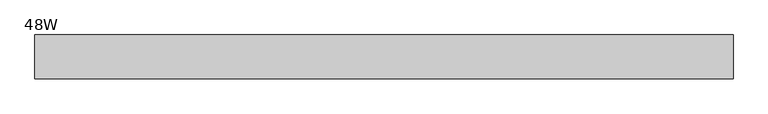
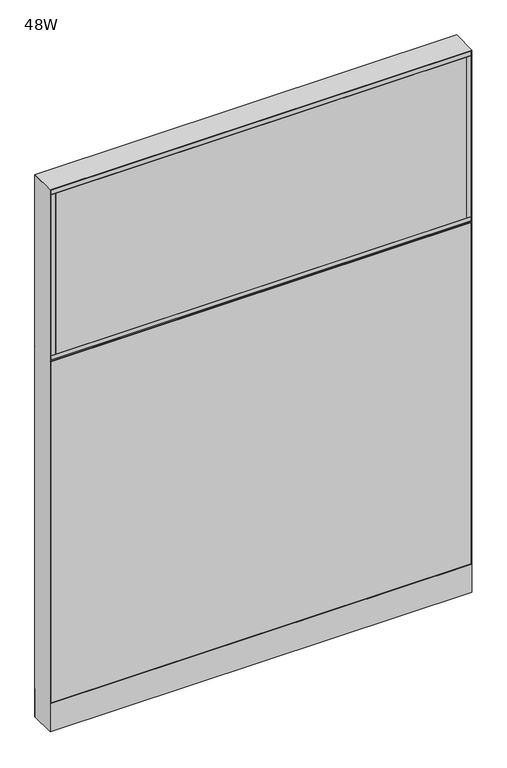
"""IFC4 building model written with IfcOpenShell, lengths in millimetres: furniture geometry, Steelcase - Montage - Frame - 65H - Enhanced Standard - Base Cavity : 48W."""

from ifc_helpers import new_model, si_unit, point, frame, frame_2d, origin, origin_with_axes, place, context, project, spatial, polyline, circle_curve, trimmed, segment, composite_curve, outline, extrude, faceted_brep, source, transform, mapped, element, save


def furniture_48w_963632dd(model_context):
    return source(origin(), model_context, "Body", "SolidModel", [
        faceted_brep([(-5.4e-06, 38.102627, 1136.6500027), (6.3499917, 31.7526299, 1142.9999997), (1212.8500047, 31.7526299, 1142.9999997), (1219.2, 38.1026253, 1136.6500044), (1212.8500047, 31.7526299, 1130.3000003), (6.3499917, 31.7526299, 1130.3000003)], [[[0, 1, 2, 3]], [[3, 4, 5, 0]], [[1, 5, 4, 2]], [[0, 5, 1]], [[2, 4, 3]]]),
        extrude(outline(polyline([(1203.325, 38.1000015), (1203.325, 31.7500017), (15.875, 31.7500017), (15.875, 38.1000015), (1203.325, 38.1000015)])), frame((0.0, 0.0, 1152.525), z_axis=(0.0, 0.0, 1.0), x_axis=(1.0, 0.0, 0.0)), (0.0, 0.0, 1.0), 492.125),
        extrude(outline(polyline([(1203.325, -31.7499985), (1203.325, -38.1000015), (15.875, -38.1000015), (15.875, -31.7499985), (1203.325, -31.7499985)])), frame((0.0, 0.0, 1152.525), z_axis=(0.0, 0.0, 1.0), x_axis=(1.0, 0.0, 0.0)), (0.0, 0.0, 1.0), 492.125),
        extrude(outline(polyline([(1216.025, -38.1000015), (1203.325, -38.1000015), (1203.325, 38.1000015), (1216.025, 38.1000015), (1216.025, -38.1000015)])), frame((0.0, 0.0, 1152.525), z_axis=(0.0, 0.0, 1.0), x_axis=(1.0, 0.0, 0.0)), (0.0, 0.0, 1.0), 492.125),
        extrude(outline(polyline([(15.875, -38.1000015), (3.175, -38.1000015), (3.175, 38.1000015), (15.875, 38.1000015), (15.875, -38.1000015)])), frame((0.0, 0.0, 1152.525), z_axis=(0.0, 0.0, 1.0), x_axis=(1.0, 0.0, 0.0)), (0.0, 0.0, 1.0), 492.125),
        extrude(outline(polyline([(1216.025, -38.1000015), (3.175, -38.1000015), (3.175, 38.1000015), (1216.025, 38.1000015), (1216.025, -38.1000015)])), frame((0.0, 0.0, 1139.825), z_axis=(0.0, 0.0, 1.0), x_axis=(1.0, 0.0, 0.0)), (0.0, 0.0, 1.0), 12.7),
        extrude(outline(polyline([(1216.025, -38.1000015), (3.175, -38.1000015), (3.175, 38.1000015), (1216.025, 38.1000015), (1216.025, -38.1000015)])), frame((0.0, 0.0, 1644.65), z_axis=(0.0, 0.0, 1.0), x_axis=(1.0, 0.0, 0.0)), (0.0, 0.0, 1.0), 12.7),
        extrude(outline(polyline([(3.175, 31.7500194), (3.175, 38.1000194), (1216.025, 38.1000194), (1216.025, 31.7500194), (3.175, 31.7500194)])), frame((0.0, 0.0, 92.075), z_axis=(0.0, 0.0, 1.0), x_axis=(1.0, 0.0, 0.0)), (0.0, 0.0, 1.0), 1041.4),
        faceted_brep([(0.0, -38.1026297, 1136.65), (1219.2, -38.1026297, 1136.65), (1212.8500047, -31.7526299, 1142.9999997), (6.3499917, -31.7526299, 1142.9999997), (6.3499917, -31.7526299, 1130.3000003), (1212.8500047, -31.7526299, 1130.3000003)], [[[0, 1, 2, 3]], [[1, 0, 4, 5]], [[3, 2, 5, 4]], [[0, 3, 4]], [[2, 1, 5]]]),
        extrude(outline(polyline([(1203.325, -38.1000015), (15.875, -38.1000015), (15.875, -31.7500017), (1203.325, -31.7500017), (1203.325, -38.1000015)])), frame((0.0, 0.0, 1152.525), z_axis=(0.0, 0.0, 1.0), x_axis=(1.0, 0.0, 0.0)), (0.0, 0.0, 1.0), 492.125),
        extrude(outline(polyline([(1203.325, 31.7499985), (15.875, 31.7499985), (15.875, 38.1000015), (1203.325, 38.1000015), (1203.325, 31.7499985)])), frame((0.0, 0.0, 1152.525), z_axis=(0.0, 0.0, 1.0), x_axis=(1.0, 0.0, 0.0)), (0.0, 0.0, 1.0), 492.125),
        extrude(outline(polyline([(1216.025, 38.1000015), (1216.025, -38.1000015), (1203.325, -38.1000015), (1203.325, 38.1000015), (1216.025, 38.1000015)])), frame((0.0, 0.0, 1152.525), z_axis=(0.0, 0.0, 1.0), x_axis=(1.0, 0.0, 0.0)), (0.0, 0.0, 1.0), 492.125),
        extrude(outline(polyline([(15.875, 38.1000015), (15.875, -38.1000015), (3.175, -38.1000015), (3.175, 38.1000015), (15.875, 38.1000015)])), frame((0.0, 0.0, 1152.525), z_axis=(0.0, 0.0, 1.0), x_axis=(1.0, 0.0, 0.0)), (0.0, 0.0, 1.0), 492.125),
        extrude(outline(polyline([(1216.025, 38.1000015), (1216.025, -38.1000015), (3.175, -38.1000015), (3.175, 38.1000015), (1216.025, 38.1000015)])), frame((0.0, 0.0, 1139.825), z_axis=(0.0, 0.0, 1.0), x_axis=(1.0, 0.0, 0.0)), (0.0, 0.0, 1.0), 12.7),
        extrude(outline(polyline([(1216.025, 38.1000015), (1216.025, -38.1000015), (3.175, -38.1000015), (3.175, 38.1000015), (1216.025, 38.1000015)])), frame((0.0, 0.0, 1644.65), z_axis=(0.0, 0.0, 1.0), x_axis=(1.0, 0.0, 0.0)), (0.0, 0.0, 1.0), 12.7),
        extrude(outline(polyline([(3.175, -31.7500194), (1216.025, -31.7500194), (1216.025, -38.1000194), (3.175, -38.1000194), (3.175, -31.7500194)])), frame((0.0, 0.0, 92.075), z_axis=(0.0, 0.0, 1.0), x_axis=(1.0, 0.0, 0.0)), (0.0, 0.0, 1.0), 1041.4),
        extrude(outline(polyline([(6.350003, -31.7499985), (1212.849997, -31.7499985), (1219.2, -38.1000015), (0.0, -38.1000015), (6.350003, -31.7499985)])), frame((0.0, 0.0, 4.064), z_axis=(0.0, 0.0, 1.0), x_axis=(1.0, 0.0, 0.0)), (0.0, 0.0, 1.0), 84.835997),
        extrude(outline(polyline([(6.3500002, 31.7500017), (0.0, 38.1000015), (1219.2, 38.1000015), (1212.8500002, 31.7500017), (6.3500002, 31.7500017)])), frame((0.0, 0.0, 4.064), z_axis=(0.0, 0.0, 1.0), x_axis=(1.0, 0.0, 0.0)), (0.0, 0.0, 1.0), 84.835997),
        faceted_brep([(1219.2, -38.1000015, 1660.525), (0.0, -38.1000015, 1660.525), (6.3500484, -31.749953, 1654.1749516), (1212.8499516, -31.749953, 1654.1749516), (6.3500484, 31.749953, 1654.1749516), (1212.8499516, 31.749953, 1654.1749516), (0.0, 38.1000015, 1660.525), (1219.2, 38.1000015, 1660.525)], [[[0, 1, 2, 3]], [[3, 2, 4, 5]], [[6, 7, 5, 4]], [[1, 0, 7, 6]], [[2, 1, 6, 4]], [[0, 3, 5, 7]]]),
        extrude(outline(composite_curve([segment(trimmed(circle_curve(frame_2d((44.45, 0.0)), 15.24), [point((29.21, 0.0))], [point((59.69, 0.0))], False, "CARTESIAN"), True, "CONTINUOUS"), segment(trimmed(circle_curve(frame_2d((44.45, 0.0)), 15.24), [point((59.69, 0.0))], [point((29.21, 0.0))], False, "CARTESIAN"), True, "CONTINUOUS")], self_intersect=False)), origin_with_axes(), (0.0, 0.0, 1.0), 4.064),
        extrude(outline(composite_curve([segment(trimmed(circle_curve(frame_2d((1174.75, 0.0)), 15.24), [point((1159.51, 0.0))], [point((1189.99, 0.0))], False, "CARTESIAN"), True, "CONTINUOUS"), segment(trimmed(circle_curve(frame_2d((1174.75, 0.0)), 15.24), [point((1189.99, 0.0))], [point((1159.51, 0.0))], False, "CARTESIAN"), True, "CONTINUOUS")], self_intersect=False)), origin_with_axes(), (0.0, 0.0, 1.0), 4.064),
        faceted_brep([(1219.2, -38.1000106, 4.064), (1219.2, 38.1000015, 4.064), (1219.2, 38.1000015, 1660.525), (1219.2, -38.1000106, 1660.5249637), (0.0, 38.1000015, 4.064), (0.0, -38.1000015, 4.064), (0.0, -38.1000015, 1660.525), (0.0, 38.1000015, 1660.525), (1212.8499879, 31.7500017, 606.425), (6.35, 31.7500017, 606.425), (6.3499998, 31.7500017, 619.125), (1212.8499879, 31.7500017, 619.125), (6.35, -31.7499985, 619.125), (1212.8499879, -31.7499985, 619.125), (6.350003, -31.7499985, 606.425), (1212.8499879, -31.7499985, 606.425), (1212.8499879, 31.7500017, 1130.3), (6.35, 31.7500017, 1130.3), (6.3499998, 31.7500017, 1143.0), (1212.8499879, 31.7500017, 1143.0), (6.35, -31.7499985, 1143.0), (1212.8499879, -31.7499985, 1143.0), (6.350003, -31.7499985, 1130.3), (1212.8499879, -31.7499985, 1130.3), (6.35, 31.7500015, 4.064), (6.35, -31.7500015, 4.064), (1212.8499879, 31.7499894, 4.064), (1212.8499879, -31.7499985, 4.064), (6.35, 31.7500015, 1654.175), (6.35, -31.7500015, 1654.175), (1212.8499879, -31.7499985, 1654.1749516), (1212.8499879, 31.7499895, 1654.1749516)], [[[0, 1, 2, 3]], [[4, 5, 6, 7]], [[8, 9, 10, 11]], [[11, 10, 12, 13]], [[13, 12, 14, 15]], [[9, 8, 15, 14]], [[16, 17, 18, 19]], [[19, 18, 20, 21]], [[21, 20, 22, 23]], [[17, 16, 23, 22]], [[24, 25, 5, 4]], [[26, 1, 0, 27]], [[24, 4, 7, 28, 18, 17, 10, 9]], [[5, 25, 14, 12, 22, 20, 29, 6]], [[20, 18, 28, 29]], [[25, 24, 9, 14]], [[10, 17, 22, 12]], [[19, 21, 30, 31]], [[26, 27, 15, 8]], [[16, 11, 13, 23]], [[27, 0, 3, 30, 21, 23, 13, 15]], [[1, 26, 8, 11, 16, 19, 31, 2]], [[7, 6, 29, 28]], [[3, 2, 31, 30]]]),
    ])


if __name__ == "__main__":
    model = new_model("IFC4")
    model_context = context("Model", 3, world=origin())
    ifc_project = project(units=[si_unit("LENGTHUNIT", "METRE", prefix="MILLI")], contexts=[model_context])
    site = spatial("IfcSite", under=ifc_project)
    building = spatial("IfcBuilding", under=site)
    placement = place(None, origin())
    furniture_48w_shape = furniture_48w_963632dd(model_context)
    element("IfcFurniture", 1, ObjectType="Steelcase - Montage - Frame - 65H - Enhanced Standard - Base Cavity : 48W", at=placement, inside=building, context=model_context, shape_type="MappedRepresentation", body=[
        mapped(furniture_48w_shape, transform((0.0, 0.0, 0.0), x_axis=(1.0, 0.0, 0.0), y_axis=(0.0, 1.0, 0.0), z_axis=(0.0, 0.0, 1.0))),
    ])
    save(model, "model.ifc")
